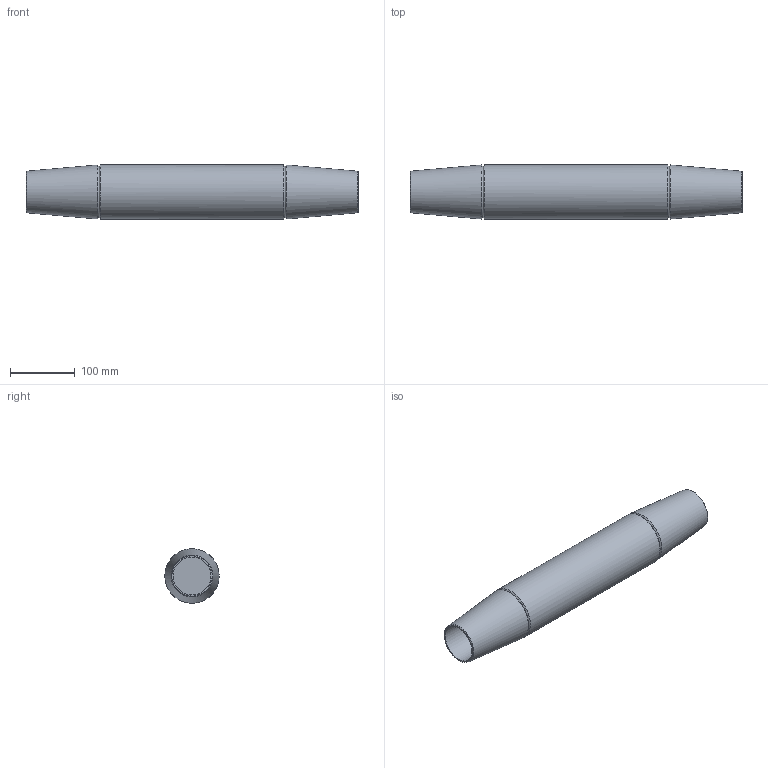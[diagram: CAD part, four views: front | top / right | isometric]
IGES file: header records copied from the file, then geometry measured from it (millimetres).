
Global section: file name: 520-056-MUF; native system: Autodesk Inventor 2016; preprocessor: unknown; author: Administrator; date: 20200630.131858; units: centimetre
Bounding box: 514 x 84 x 83.91 mm (x, y, z)
Volume: 2118248.8 mm3; surface area: 167130.7 mm2
Topology: 1 solids, 1 shells, 15 faces, 35 edges, 24 vertices
Faces by surface type: bspline 15
